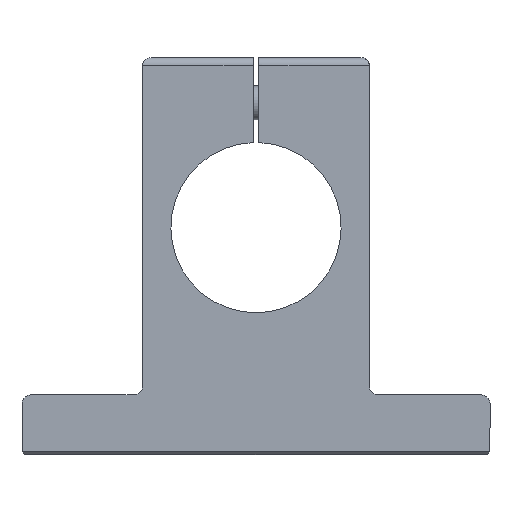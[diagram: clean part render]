
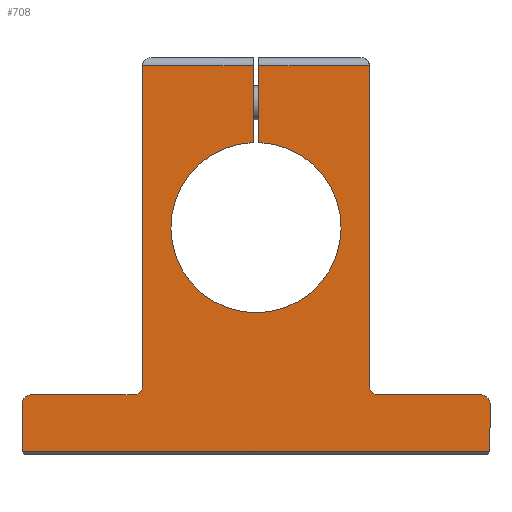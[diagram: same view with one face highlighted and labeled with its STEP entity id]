
A CAD part, left-side view. The second image highlights one B-rep face of the part: STEP entity #708.
In plain terms, the highlighted planar face has unit normal (-1, 0, 0).
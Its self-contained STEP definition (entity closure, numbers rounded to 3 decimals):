
#443=CARTESIAN_POINT('',(0.0,-1.,57.0));
#444=VERTEX_POINT('',#443);
#452=CARTESIAN_POINT('',(0.0,-40.,57.));
#453=VERTEX_POINT('',#452);
#454=CARTESIAN_POINT('',(0.0,-1.,57.0));
#455=DIRECTION('',(0.0,-1.0,0.0));
#456=VECTOR('',#455,39.);
#457=LINE('',#454,#456);
#458=EDGE_CURVE('',#444,#453,#457,.T.);
#548=CARTESIAN_POINT('',(0.0,-40.,-56.));
#549=VERTEX_POINT('',#548);
#550=CARTESIAN_POINT('',(0.0,-40.,57.));
#551=DIRECTION('',(0.0,0.0,-1.0));
#552=VECTOR('',#551,113.);
#553=LINE('',#550,#552);
#554=EDGE_CURVE('',#453,#549,#553,.T.);
#584=CARTESIAN_POINT('',(0.0,0.,-15.422));
#585=DIRECTION('',(1.0,0.0,0.0));
#586=DIRECTION('',(0.0,0.0,-1.0));
#587=AXIS2_PLACEMENT_3D('',#584,#585,#586);
#588=PLANE('',#587);
#589=ORIENTED_EDGE('',*,*,#458,.F.);
#590=CARTESIAN_POINT('',(0.0,-1.,29.983));
#591=VERTEX_POINT('',#590);
#592=CARTESIAN_POINT('',(0.0,-1.,29.983));
#593=DIRECTION('',(0.0,0.0,1.0));
#594=VECTOR('',#593,27.017);
#595=LINE('',#592,#594);
#596=EDGE_CURVE('',#591,#444,#595,.T.);
#597=ORIENTED_EDGE('',*,*,#596,.F.);
#598=CARTESIAN_POINT('',(0.0,1.,29.983));
#599=VERTEX_POINT('',#598);
#600=CARTESIAN_POINT('',(0.0,0.0,0.));
#601=DIRECTION('',(-1.0,0.0,0.0));
#602=DIRECTION('',(0.0,-1.0,0.0));
#603=AXIS2_PLACEMENT_3D('',#600,#601,#602);
#604=CIRCLE('',#603,30.0);
#605=EDGE_CURVE('',#599,#591,#604,.T.);
#606=ORIENTED_EDGE('',*,*,#605,.F.);
#607=CARTESIAN_POINT('',(0.0,1.,57.0));
#608=VERTEX_POINT('',#607);
#609=CARTESIAN_POINT('',(0.0,1.,57.0));
#610=DIRECTION('',(0.0,0.0,-1.0));
#611=VECTOR('',#610,27.017);
#612=LINE('',#609,#611);
#613=EDGE_CURVE('',#608,#599,#612,.T.);
#614=ORIENTED_EDGE('',*,*,#613,.F.);
#615=CARTESIAN_POINT('',(0.0,40.,57.));
#616=VERTEX_POINT('',#615);
#617=CARTESIAN_POINT('',(0.0,40.,57.));
#618=DIRECTION('',(0.0,-1.0,0.0));
#619=VECTOR('',#618,39.);
#620=LINE('',#617,#619);
#621=EDGE_CURVE('',#616,#608,#620,.T.);
#622=ORIENTED_EDGE('',*,*,#621,.F.);
#623=CARTESIAN_POINT('',(0.0,40.,-56.));
#624=VERTEX_POINT('',#623);
#625=CARTESIAN_POINT('',(0.0,40.,-56.));
#626=DIRECTION('',(0.0,0.0,1.0));
#627=VECTOR('',#626,113.);
#628=LINE('',#625,#627);
#629=EDGE_CURVE('',#624,#616,#628,.T.);
#630=ORIENTED_EDGE('',*,*,#629,.F.);
#631=CARTESIAN_POINT('',(0.0,43.,-59.0));
#632=VERTEX_POINT('',#631);
#633=CARTESIAN_POINT('',(0.0,43.,-56.));
#634=DIRECTION('',(-1.0,0.0,0.0));
#635=DIRECTION('',(0.0,-0.707,-0.707));
#636=AXIS2_PLACEMENT_3D('',#633,#634,#635);
#637=CIRCLE('',#636,3.);
#638=EDGE_CURVE('',#632,#624,#637,.T.);
#639=ORIENTED_EDGE('',*,*,#638,.F.);
#640=CARTESIAN_POINT('',(0.0,79.5,-59.));
#641=VERTEX_POINT('',#640);
#642=CARTESIAN_POINT('',(0.0,79.5,-59.));
#643=DIRECTION('',(0.0,-1.0,0.0));
#644=VECTOR('',#643,36.5);
#645=LINE('',#642,#644);
#646=EDGE_CURVE('',#641,#632,#645,.T.);
#647=ORIENTED_EDGE('',*,*,#646,.F.);
#648=CARTESIAN_POINT('',(0.0,82.5,-62.));
#649=VERTEX_POINT('',#648);
#650=CARTESIAN_POINT('',(0.0,79.5,-62.));
#651=DIRECTION('',(1.,0.0,0.0));
#652=DIRECTION('',(0.0,0.707,0.707));
#653=AXIS2_PLACEMENT_3D('',#650,#651,#652);
#654=CIRCLE('',#653,3.);
#655=EDGE_CURVE('',#649,#641,#654,.T.);
#656=ORIENTED_EDGE('',*,*,#655,.F.);
#657=CARTESIAN_POINT('',(0.0,82.5,-79.0));
#658=VERTEX_POINT('',#657);
#659=CARTESIAN_POINT('',(0.0,82.5,-79.0));
#660=DIRECTION('',(0.0,0.0,1.0));
#661=VECTOR('',#660,17.);
#662=LINE('',#659,#661);
#663=EDGE_CURVE('',#658,#649,#662,.T.);
#664=ORIENTED_EDGE('',*,*,#663,.F.);
#665=CARTESIAN_POINT('',(0.0,-82.5,-79.0));
#666=VERTEX_POINT('',#665);
#667=CARTESIAN_POINT('',(0.0,-82.5,-79.0));
#668=DIRECTION('',(0.0,1.0,0.0));
#669=VECTOR('',#668,165.);
#670=LINE('',#667,#669);
#671=EDGE_CURVE('',#666,#658,#670,.T.);
#672=ORIENTED_EDGE('',*,*,#671,.F.);
#673=CARTESIAN_POINT('',(0.0,-82.5,-62.));
#674=VERTEX_POINT('',#673);
#675=CARTESIAN_POINT('',(0.0,-82.5,-62.));
#676=DIRECTION('',(0.0,0.0,-1.0));
#677=VECTOR('',#676,17.);
#678=LINE('',#675,#677);
#679=EDGE_CURVE('',#674,#666,#678,.T.);
#680=ORIENTED_EDGE('',*,*,#679,.F.);
#681=CARTESIAN_POINT('',(0.0,-79.5,-59.));
#682=VERTEX_POINT('',#681);
#683=CARTESIAN_POINT('',(0.0,-79.5,-62.));
#684=DIRECTION('',(1.,0.0,0.0));
#685=DIRECTION('',(0.0,-0.707,0.707));
#686=AXIS2_PLACEMENT_3D('',#683,#684,#685);
#687=CIRCLE('',#686,3.);
#688=EDGE_CURVE('',#682,#674,#687,.T.);
#689=ORIENTED_EDGE('',*,*,#688,.F.);
#690=CARTESIAN_POINT('',(0.0,-43.,-59.0));
#691=VERTEX_POINT('',#690);
#692=CARTESIAN_POINT('',(0.0,-43.,-59.0));
#693=DIRECTION('',(0.0,-1.0,0.0));
#694=VECTOR('',#693,36.5);
#695=LINE('',#692,#694);
#696=EDGE_CURVE('',#691,#682,#695,.T.);
#697=ORIENTED_EDGE('',*,*,#696,.F.);
#698=CARTESIAN_POINT('',(0.0,-43.,-56.));
#699=DIRECTION('',(-1.0,0.0,0.0));
#700=DIRECTION('',(0.0,0.707,-0.707));
#701=AXIS2_PLACEMENT_3D('',#698,#699,#700);
#702=CIRCLE('',#701,3.);
#703=EDGE_CURVE('',#549,#691,#702,.T.);
#704=ORIENTED_EDGE('',*,*,#703,.F.);
#705=ORIENTED_EDGE('',*,*,#554,.F.);
#706=EDGE_LOOP('',(#589,#597,#606,#614,#622,#630,#639,#647,#656,#664,#672,#680,#689,#697,#704,#705));
#707=FACE_OUTER_BOUND('',#706,.T.);
#708=ADVANCED_FACE('',(#707),#588,.F.);
